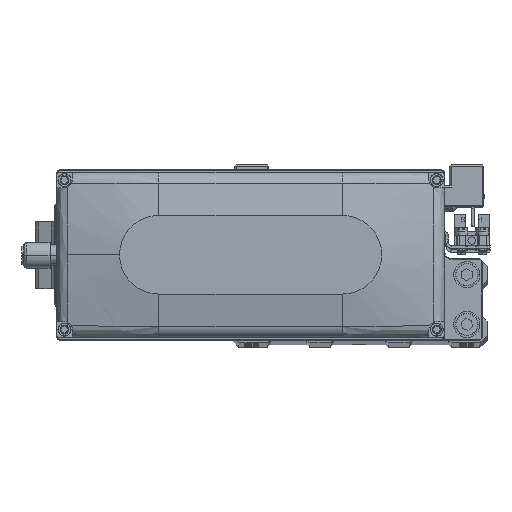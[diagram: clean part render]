
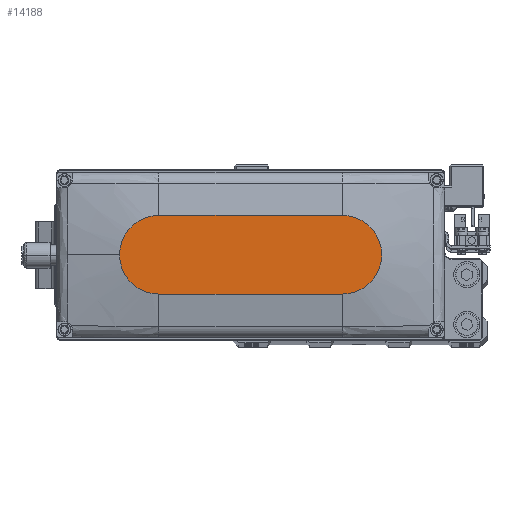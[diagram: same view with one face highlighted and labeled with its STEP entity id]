
A CAD part, top view. The second image highlights one B-rep face of the part: STEP entity #14188.
In plain terms, the highlighted planar face has unit normal (0, 0, 1).
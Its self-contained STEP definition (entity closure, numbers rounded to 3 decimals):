
#538 = CIRCLE ( 'NONE', #25120, 15. ) ;
#1207 = CARTESIAN_POINT ( 'NONE',  ( -35., 15., 35. ) ) ;
#2375 = FACE_OUTER_BOUND ( 'NONE', #26831, .T. ) ;
#3578 = CARTESIAN_POINT ( 'NONE',  ( 35., 15., 35. ) ) ;
#3703 = EDGE_CURVE ( 'NONE', #27828, #22131, #24936, .T. ) ;
#4099 = VERTEX_POINT ( 'NONE', #12307 ) ;
#4280 = DIRECTION ( 'NONE',  ( 0., 0., 1. ) ) ;
#4696 = DIRECTION ( 'NONE',  ( 0., 0., 1. ) ) ;
#5432 = CARTESIAN_POINT ( 'NONE',  ( 35., 0., 35. ) ) ;
#5979 = AXIS2_PLACEMENT_3D ( 'NONE', #34784, #4696, #18090 ) ;
#6875 = CARTESIAN_POINT ( 'NONE',  ( -35., 15., 35. ) ) ;
#7265 = CARTESIAN_POINT ( 'NONE',  ( -35., -15., 35. ) ) ;
#7749 = EDGE_CURVE ( 'NONE', #35748, #28942, #538, .T. ) ;
#12307 = CARTESIAN_POINT ( 'NONE',  ( 35., -15., 35. ) ) ;
#12509 = DIRECTION ( 'NONE',  ( 1., 0., 0. ) ) ;
#13057 = CARTESIAN_POINT ( 'NONE',  ( 50., 0., 35. ) ) ;
#14148 = VECTOR ( 'NONE', #20667, 1000. ) ;
#14188 = ADVANCED_FACE ( 'NONE', ( #2375 ), #15790, .T. ) ;
#14614 = DIRECTION ( 'NONE',  ( -1., 0., 0. ) ) ;
#15389 = ORIENTED_EDGE ( 'NONE', *, *, #3703, .T. ) ;
#15746 = ORIENTED_EDGE ( 'NONE', *, *, #7749, .T. ) ;
#15790 = PLANE ( 'NONE',  #40624 ) ;
#17676 = DIRECTION ( 'NONE',  ( 1., 0., 0. ) ) ;
#18043 = EDGE_CURVE ( 'NONE', #4099, #35748, #37090, .T. ) ;
#18090 = DIRECTION ( 'NONE',  ( 1., 0., 0. ) ) ;
#18830 = DIRECTION ( 'NONE',  ( 0., 0., 1. ) ) ;
#20667 = DIRECTION ( 'NONE',  ( 1., 0., 0. ) ) ;
#22131 = VERTEX_POINT ( 'NONE', #31293 ) ;
#24896 = EDGE_CURVE ( 'NONE', #28942, #27828, #31318, .T. ) ;
#24936 = CIRCLE ( 'NONE', #5979, 15. ) ;
#25120 = AXIS2_PLACEMENT_3D ( 'NONE', #34384, #4280, #17676 ) ;
#25433 = ORIENTED_EDGE ( 'NONE', *, *, #24896, .T. ) ;
#26831 = EDGE_LOOP ( 'NONE', ( #25433, #15389, #35575, #31437, #15746 ) ) ;
#27828 = VERTEX_POINT ( 'NONE', #6875 ) ;
#28942 = VERTEX_POINT ( 'NONE', #3578 ) ;
#29204 = CARTESIAN_POINT ( 'NONE',  ( 0., 0., 35. ) ) ;
#31293 = CARTESIAN_POINT ( 'NONE',  ( -35., -15., 35. ) ) ;
#31318 = LINE ( 'NONE', #1207, #35171 ) ;
#31437 = ORIENTED_EDGE ( 'NONE', *, *, #18043, .T. ) ;
#32239 = DIRECTION ( 'NONE',  ( 1., 0., 0. ) ) ;
#34384 = CARTESIAN_POINT ( 'NONE',  ( 35., 0., 35. ) ) ;
#34784 = CARTESIAN_POINT ( 'NONE',  ( -35., 0., 35. ) ) ;
#35171 = VECTOR ( 'NONE', #14614, 1000. ) ;
#35575 = ORIENTED_EDGE ( 'NONE', *, *, #36318, .T. ) ;
#35748 = VERTEX_POINT ( 'NONE', #13057 ) ;
#36318 = EDGE_CURVE ( 'NONE', #22131, #4099, #37359, .T. ) ;
#37090 = CIRCLE ( 'NONE', #42691, 15. ) ;
#37359 = LINE ( 'NONE', #7265, #14148 ) ;
#40624 = AXIS2_PLACEMENT_3D ( 'NONE', #29204, #42594, #12509 ) ;
#42594 = DIRECTION ( 'NONE',  ( 0., 0., 1. ) ) ;
#42691 = AXIS2_PLACEMENT_3D ( 'NONE', #5432, #18830, #32239 ) ;
